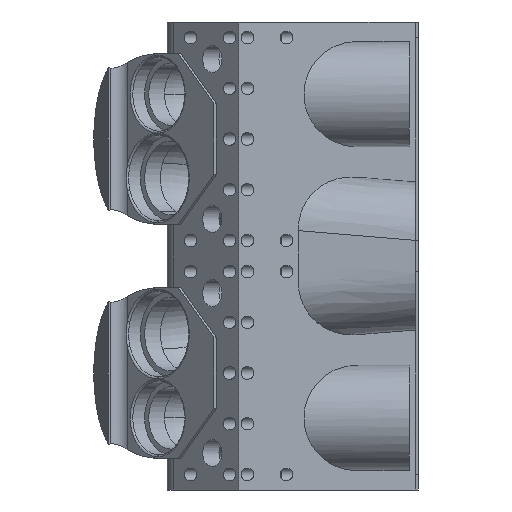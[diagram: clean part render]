
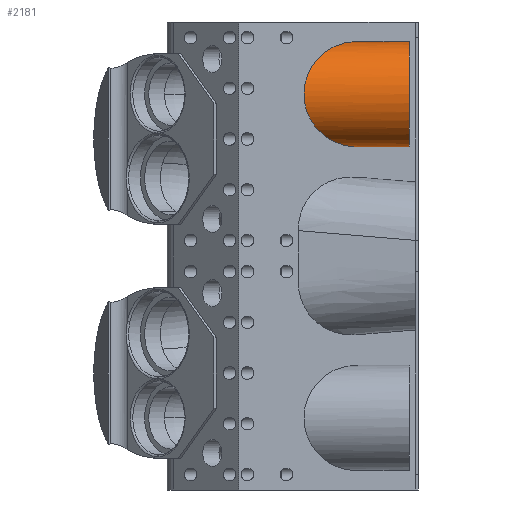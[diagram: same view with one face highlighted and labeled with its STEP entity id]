
A CAD part, front view. The second image highlights one B-rep face of the part: STEP entity #2181.
In plain terms, the highlighted cylindrical face has radius 13.5 mm (diameter 27 mm), a partial arc.
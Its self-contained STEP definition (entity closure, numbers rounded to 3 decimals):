
#2181=ADVANCED_FACE('',(#4838),#4839,.T.);
#4838=FACE_OUTER_BOUND('',#9443,.T.);
#4839=CYLINDRICAL_SURFACE('',#9444,13.5);
#9443=EDGE_LOOP('',(#16637,#16638,#16639,#16640));
#9444=AXIS2_PLACEMENT_3D('',#16641,#16642,#16643);
#16637=ORIENTED_EDGE('',*,*,#22917,.T.);
#16638=ORIENTED_EDGE('',*,*,#22918,.T.);
#16639=ORIENTED_EDGE('',*,*,#22919,.T.);
#16640=ORIENTED_EDGE('',*,*,#22920,.T.);
#16641=CARTESIAN_POINT('',(92.717,-56.0,101.5));
#16642=DIRECTION('',(1.0,0.,0.));
#16643=DIRECTION('',(0.,0.0,-1.0));
#22917=EDGE_CURVE('',#28448,#28449,#28450,.T.);
#22918=EDGE_CURVE('',#28449,#28451,#28452,.T.);
#22919=EDGE_CURVE('',#28451,#28453,#28454,.T.);
#22920=EDGE_CURVE('',#28453,#28448,#28455,.T.);
#28448=VERTEX_POINT('',#43835);
#28449=VERTEX_POINT('',#43836);
#28450=LINE('',#43837,#43838);
#28451=VERTEX_POINT('',#43839);
#28452=CIRCLE('',#43840,13.5);
#28453=VERTEX_POINT('',#43841);
#28454=LINE('',#43842,#43843);
#28455=ELLIPSE('',#43844,19.092,13.5);
#43835=CARTESIAN_POINT('',(106.217,-56.0,88.0));
#43836=CARTESIAN_POINT('',(119.717,-56.0,88.0));
#43837=CARTESIAN_POINT('',(92.717,-56.0,88.0));
#43838=VECTOR('',#50006,1.0);
#43839=CARTESIAN_POINT('',(119.717,-56.0,115.0));
#43840=AXIS2_PLACEMENT_3D('',#50007,#50008,#50009);
#43841=CARTESIAN_POINT('',(106.217,-56.0,115.0));
#43842=CARTESIAN_POINT('',(92.717,-56.0,115.0));
#43843=VECTOR('',#50010,1.0);
#43844=AXIS2_PLACEMENT_3D('',#50011,#50012,#50013);
#50006=DIRECTION('',(1.0,0.,0.));
#50007=CARTESIAN_POINT('',(119.717,-56.0,101.5));
#50008=DIRECTION('',(-1.0,0.,0.));
#50009=DIRECTION('',(0.,0.0,-1.0));
#50010=DIRECTION('',(-1.0,0.,0.));
#50011=CARTESIAN_POINT('',(106.217,-56.0,101.5));
#50012=DIRECTION('',(0.707,-0.707,0.));
#50013=DIRECTION('',(0.707,0.707,0.));
